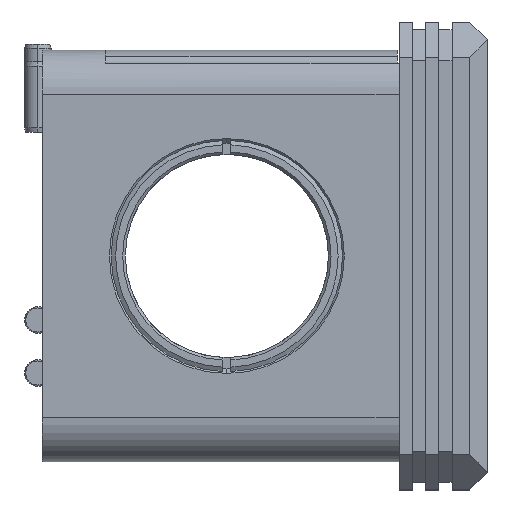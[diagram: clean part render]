
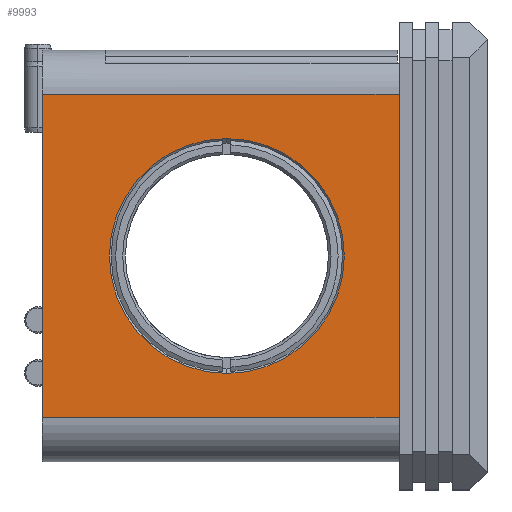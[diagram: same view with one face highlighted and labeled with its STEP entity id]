
A CAD part, left-side view. The second image highlights one B-rep face of the part: STEP entity #9993.
In plain terms, the highlighted planar face has unit normal (-1, 0, 0).
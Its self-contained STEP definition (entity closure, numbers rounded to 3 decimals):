
#52 = CARTESIAN_POINT ( 'NONE',  ( -23.3, 10., -23.3 ) ) ;
#421 = LINE ( 'NONE', #19300, #4136 ) ;
#596 = VERTEX_POINT ( 'NONE', #13743 ) ;
#673 = CIRCLE ( 'NONE', #16581, 13.3 ) ;
#818 = DIRECTION ( 'NONE',  ( 0., 0., 1. ) ) ;
#986 = EDGE_CURVE ( 'NONE', #14982, #596, #1205, .T. ) ;
#997 = VERTEX_POINT ( 'NONE', #12736 ) ;
#1205 = LINE ( 'NONE', #11801, #7894 ) ;
#1601 = LINE ( 'NONE', #12484, #6411 ) ;
#1803 = CARTESIAN_POINT ( 'NONE',  ( -23.3, 50.4, -18.3 ) ) ;
#2353 = DIRECTION ( 'NONE',  ( 1., 0., 0. ) ) ;
#2810 = ORIENTED_EDGE ( 'NONE', *, *, #986, .T. ) ;
#3033 = ORIENTED_EDGE ( 'NONE', *, *, #11669, .T. ) ;
#3398 = LINE ( 'NONE', #52, #10262 ) ;
#3611 = AXIS2_PLACEMENT_3D ( 'NONE', #19242, #14501, #16120 ) ;
#3645 = ORIENTED_EDGE ( 'NONE', *, *, #12189, .T. ) ;
#3886 = CARTESIAN_POINT ( 'NONE',  ( -23.3, 10., -23.3 ) ) ;
#4075 = EDGE_CURVE ( 'NONE', #19212, #596, #3398, .T. ) ;
#4136 = VECTOR ( 'NONE', #11717, 1000. ) ;
#5189 = AXIS2_PLACEMENT_3D ( 'NONE', #3886, #2353, #818 ) ;
#5405 = FACE_OUTER_BOUND ( 'NONE', #11582, .T. ) ;
#6000 = VERTEX_POINT ( 'NONE', #19793 ) ;
#6411 = VECTOR ( 'NONE', #19871, 1000. ) ;
#7520 = EDGE_CURVE ( 'NONE', #19212, #997, #1601, .T. ) ;
#7894 = VECTOR ( 'NONE', #13674, 1000. ) ;
#8330 = ORIENTED_EDGE ( 'NONE', *, *, #18796, .T. ) ;
#8376 = EDGE_LOOP ( 'NONE', ( #3033, #3645 ) ) ;
#9331 = DIRECTION ( 'NONE',  ( 1., 0., 0. ) ) ;
#9993 = ADVANCED_FACE ( 'NONE', ( #19302, #5405 ), #17795, .F. ) ;
#10262 = VECTOR ( 'NONE', #13890, 1000. ) ;
#11047 = ORIENTED_EDGE ( 'NONE', *, *, #4075, .F. ) ;
#11582 = EDGE_LOOP ( 'NONE', ( #11047, #17010, #8330, #2810 ) ) ;
#11669 = EDGE_CURVE ( 'NONE', #6000, #19537, #673, .T. ) ;
#11717 = DIRECTION ( 'NONE',  ( 0., 0., -1. ) ) ;
#11801 = CARTESIAN_POINT ( 'NONE',  ( -23.3, 10., -18.3 ) ) ;
#12189 = EDGE_CURVE ( 'NONE', #19537, #6000, #18529, .T. ) ;
#12484 = CARTESIAN_POINT ( 'NONE',  ( -23.3, 10., 18.3 ) ) ;
#12736 = CARTESIAN_POINT ( 'NONE',  ( -23.3, 50.4, 18.3 ) ) ;
#13073 = CARTESIAN_POINT ( 'NONE',  ( -23.3, 29.5, 13.3 ) ) ;
#13674 = DIRECTION ( 'NONE',  ( 0., -1., 0. ) ) ;
#13743 = CARTESIAN_POINT ( 'NONE',  ( -23.3, 10., -18.3 ) ) ;
#13890 = DIRECTION ( 'NONE',  ( 0., 0., -1. ) ) ;
#14501 = DIRECTION ( 'NONE',  ( 1., 0., 0. ) ) ;
#14641 = CARTESIAN_POINT ( 'NONE',  ( -23.3, 10., 18.3 ) ) ;
#14982 = VERTEX_POINT ( 'NONE', #1803 ) ;
#16120 = DIRECTION ( 'NONE',  ( 0., 0., 1. ) ) ;
#16581 = AXIS2_PLACEMENT_3D ( 'NONE', #16942, #9331, #16740 ) ;
#16740 = DIRECTION ( 'NONE',  ( 0., 0., 1. ) ) ;
#16942 = CARTESIAN_POINT ( 'NONE',  ( -23.3, 29.5, 0. ) ) ;
#17010 = ORIENTED_EDGE ( 'NONE', *, *, #7520, .T. ) ;
#17795 = PLANE ( 'NONE',  #5189 ) ;
#18529 = CIRCLE ( 'NONE', #3611, 13.3 ) ;
#18796 = EDGE_CURVE ( 'NONE', #997, #14982, #421, .T. ) ;
#19212 = VERTEX_POINT ( 'NONE', #14641 ) ;
#19242 = CARTESIAN_POINT ( 'NONE',  ( -23.3, 29.5, 0. ) ) ;
#19300 = CARTESIAN_POINT ( 'NONE',  ( -23.3, 50.4, -23.3 ) ) ;
#19302 = FACE_BOUND ( 'NONE', #8376, .T. ) ;
#19537 = VERTEX_POINT ( 'NONE', #13073 ) ;
#19793 = CARTESIAN_POINT ( 'NONE',  ( -23.3, 29.5, -13.3 ) ) ;
#19871 = DIRECTION ( 'NONE',  ( 0., 1., 0. ) ) ;
